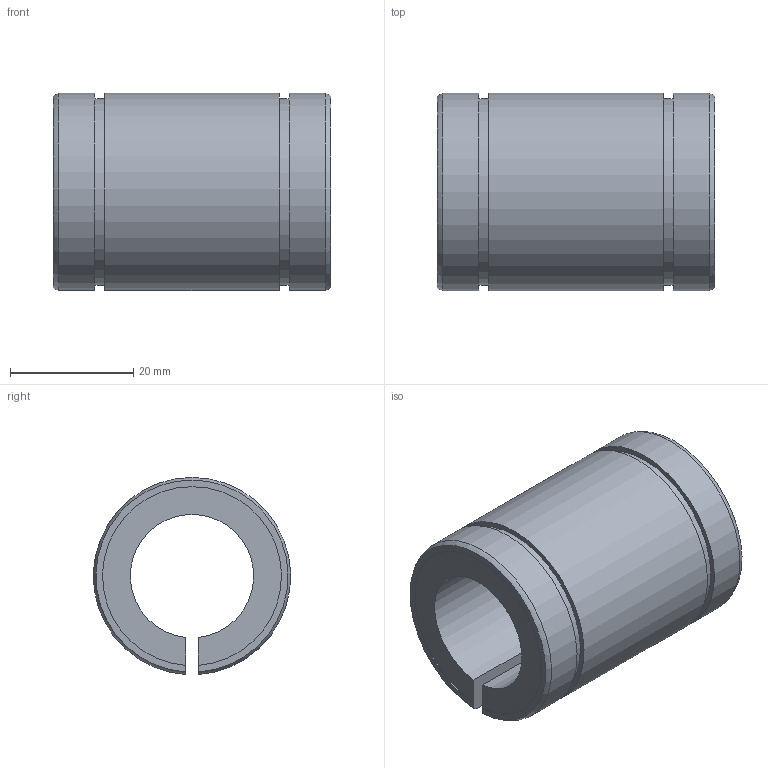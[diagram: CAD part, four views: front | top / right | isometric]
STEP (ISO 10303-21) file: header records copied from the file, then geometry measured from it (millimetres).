
FILE_DESCRIPTION((''),'2;1');
FILE_NAME('D:\製品 (図面)\カタログ用3D\リニアベアリング関連\STEP形式\LE-ADJ\LE20-ADJ.stp','2010-06-03T09:07:56',('Tsuchiya'),(''),'Autodesk Inventor 10','Autodesk Inventor 10','');
FILE_SCHEMA(('AUTOMOTIVE_DESIGN { 1 0 10303 214 1 1 1 1 }'));
Length unit declared in the file: millimetre
Products named in the file (1): LE20-ADJ
Bounding box: 45 x 31.98 x 31.97 mm (x, y, z)
Volume: 21152.1 mm3; surface area: 8909.4 mm2
Topology: 1 solids, 1 shells, 20 faces, 54 edges, 36 vertices
Faces by surface type: plane 10, cylinder 8, torus 2
Entity records: 681 total; most frequent: CARTESIAN_POINT 141, DIRECTION 110, ORIENTED_EDGE 108, EDGE_CURVE 54, AXIS2_PLACEMENT_3D 39, VERTEX_POINT 36, VECTOR 32, LINE 32
